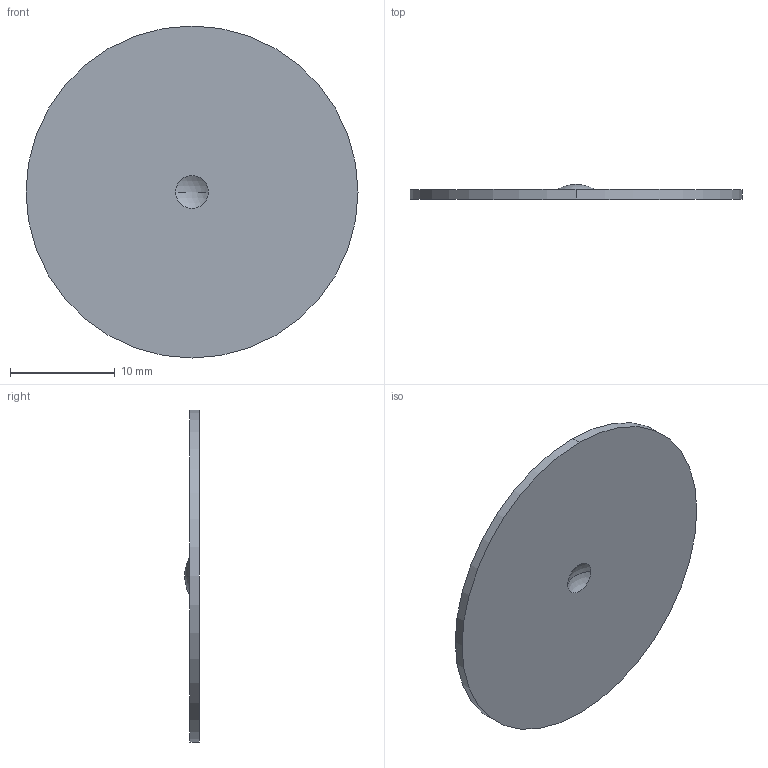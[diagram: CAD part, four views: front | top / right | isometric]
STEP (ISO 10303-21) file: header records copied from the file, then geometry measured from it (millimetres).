
FILE_DESCRIPTION (( 'STEP AP203' ), '1' );
FILE_NAME ('1207834-10.STEP', '2024-11-13T15:16:02', ( '' ), ( '' ), 'SwSTEP 2.0', 'SolidWorks 2024', '' );
FILE_SCHEMA (( 'CONFIG_CONTROL_DESIGN' ));
Length unit declared in the file: inch
Products named in the file (1): 1207834-10
Bounding box: 31.75 x 1.42 x 31.75 mm (x, y, z)
Volume: 724.7 mm3; surface area: 1676.3 mm2
Topology: 1 solids, 1 shells, 8 faces, 14 edges, 10 vertices
Faces by surface type: sphere 4, cylinder 2, plane 2
Entity records: 285 total; most frequent: DIRECTION 44, CARTESIAN_POINT 33, ORIENTED_EDGE 28, AXIS2_PLACEMENT_3D 21, EDGE_CURVE 14, CIRCLE 12, VERTEX_POINT 10, EDGE_LOOP 10
